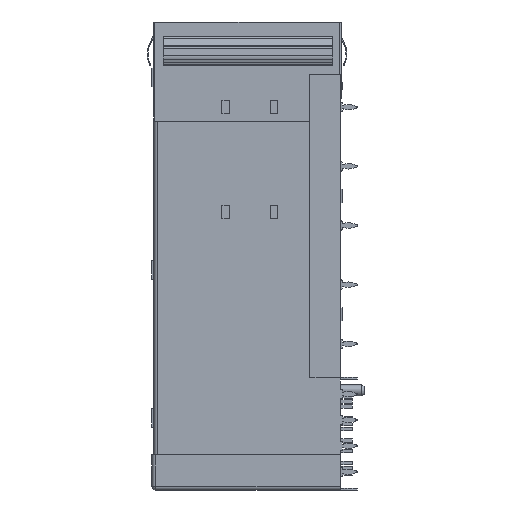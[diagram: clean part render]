
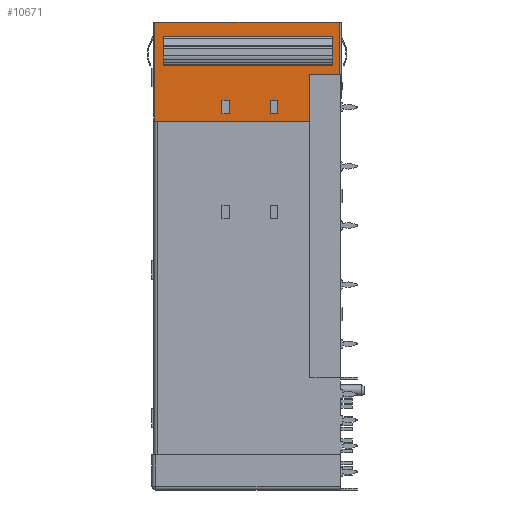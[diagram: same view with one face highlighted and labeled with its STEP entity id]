
A CAD part, left-side view. The second image highlights one B-rep face of the part: STEP entity #10671.
In plain terms, the highlighted planar face has unit normal (-1, 0, 0).
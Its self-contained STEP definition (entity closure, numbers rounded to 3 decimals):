
#105 = DIRECTION ( 'NONE',  ( 0., 0., 1. ) ) ;
#576 = CARTESIAN_POINT ( 'NONE',  ( -21.625, 9.45, -10.6 ) ) ;
#801 = CARTESIAN_POINT ( 'NONE',  ( -21.625, 0., -7.1 ) ) ;
#1171 = CARTESIAN_POINT ( 'NONE',  ( -21.625, 1.05, -1.9 ) ) ;
#1560 = FACE_BOUND ( 'NONE', #15765, .T. ) ;
#1894 = ORIENTED_EDGE ( 'NONE', *, *, #69504, .T. ) ;
#2061 = LINE ( 'NONE', #15901, #43849 ) ;
#2487 = VECTOR ( 'NONE', #65101, 1000. ) ;
#4101 = EDGE_CURVE ( 'NONE', #58446, #46046, #51675, .T. ) ;
#5381 = DIRECTION ( 'NONE',  ( 0., 0., -1. ) ) ;
#5405 = ORIENTED_EDGE ( 'NONE', *, *, #71910, .T. ) ;
#5601 = EDGE_CURVE ( 'NONE', #15027, #12348, #8885, .T. ) ;
#6505 = CARTESIAN_POINT ( 'NONE',  ( -21.625, 15., -12.4 ) ) ;
#6560 = CARTESIAN_POINT ( 'NONE',  ( -21.625, 16., -10.6 ) ) ;
#6942 = LINE ( 'NONE', #46851, #42539 ) ;
#7406 = LINE ( 'NONE', #33792, #39459 ) ;
#8166 = ORIENTED_EDGE ( 'NONE', *, *, #72322, .T. ) ;
#8399 = EDGE_LOOP ( 'NONE', ( #5405, #14282, #1894, #47153 ) ) ;
#8885 = LINE ( 'NONE', #47711, #55857 ) ;
#9076 = ORIENTED_EDGE ( 'NONE', *, *, #20015, .F. ) ;
#9655 = VERTEX_POINT ( 'NONE', #72562 ) ;
#10589 = CARTESIAN_POINT ( 'NONE',  ( -21.625, 25.1, -13.4 ) ) ;
#10671 = ADVANCED_FACE ( 'NONE', ( #1560, #16657, #61781, #59992 ), #34344, .F. ) ;
#11082 = CARTESIAN_POINT ( 'NONE',  ( -21.625, 8.45, 0. ) ) ;
#11856 = CARTESIAN_POINT ( 'NONE',  ( -21.625, 1.05, -2.181 ) ) ;
#12091 = VERTEX_POINT ( 'NONE', #49321 ) ;
#12348 = VERTEX_POINT ( 'NONE', #27281 ) ;
#13636 = VERTEX_POINT ( 'NONE', #46339 ) ;
#14282 = ORIENTED_EDGE ( 'NONE', *, *, #20137, .T. ) ;
#15027 = VERTEX_POINT ( 'NONE', #35669 ) ;
#15765 = EDGE_LOOP ( 'NONE', ( #22253, #53220, #24999, #18745 ) ) ;
#15901 = CARTESIAN_POINT ( 'NONE',  ( -21.625, 15., 0. ) ) ;
#16276 = ORIENTED_EDGE ( 'NONE', *, *, #33803, .T. ) ;
#16636 = EDGE_LOOP ( 'NONE', ( #70924, #57732, #8166, #9076 ) ) ;
#16657 = FACE_BOUND ( 'NONE', #8399, .T. ) ;
#16762 = DIRECTION ( 'NONE',  ( 0., -1., 0. ) ) ;
#16866 = CARTESIAN_POINT ( 'NONE',  ( -21.625, 0., -10.6 ) ) ;
#16917 = VERTEX_POINT ( 'NONE', #61858 ) ;
#17950 = EDGE_CURVE ( 'NONE', #30521, #12091, #48536, .T. ) ;
#18677 = EDGE_CURVE ( 'NONE', #50938, #15027, #34424, .T. ) ;
#18745 = ORIENTED_EDGE ( 'NONE', *, *, #17950, .T. ) ;
#20015 = EDGE_CURVE ( 'NONE', #46046, #9655, #43951, .T. ) ;
#20137 = EDGE_CURVE ( 'NONE', #27330, #13636, #35118, .T. ) ;
#20358 = VECTOR ( 'NONE', #26150, 1000. ) ;
#20580 = LINE ( 'NONE', #72843, #48886 ) ;
#20679 = CARTESIAN_POINT ( 'NONE',  ( -21.625, 16., -12.4 ) ) ;
#21269 = DIRECTION ( 'NONE',  ( 0., 1., 0. ) ) ;
#21424 = CARTESIAN_POINT ( 'NONE',  ( -21.625, 0., -12.4 ) ) ;
#22253 = ORIENTED_EDGE ( 'NONE', *, *, #33489, .T. ) ;
#22936 = VERTEX_POINT ( 'NONE', #10589 ) ;
#22977 = CARTESIAN_POINT ( 'NONE',  ( -21.625, 4.1, -13.4 ) ) ;
#23663 = VERTEX_POINT ( 'NONE', #576 ) ;
#24999 = ORIENTED_EDGE ( 'NONE', *, *, #58418, .T. ) ;
#25205 = VECTOR ( 'NONE', #37685, 1000. ) ;
#25303 = LINE ( 'NONE', #16866, #42154 ) ;
#25721 = LINE ( 'NONE', #28750, #53967 ) ;
#26150 = DIRECTION ( 'NONE',  ( 0., 0., 1. ) ) ;
#26938 = CARTESIAN_POINT ( 'NONE',  ( -21.625, 0., -10.6 ) ) ;
#26955 = DIRECTION ( 'NONE',  ( 0., -1., 0. ) ) ;
#27139 = VECTOR ( 'NONE', #70847, 1000. ) ;
#27281 = CARTESIAN_POINT ( 'NONE',  ( -21.625, 25.1, 0. ) ) ;
#27330 = VERTEX_POINT ( 'NONE', #6560 ) ;
#28465 = CARTESIAN_POINT ( 'NONE',  ( -21.625, 9.45, 0. ) ) ;
#28750 = CARTESIAN_POINT ( 'NONE',  ( -21.625, 4.1, 0. ) ) ;
#28780 = ORIENTED_EDGE ( 'NONE', *, *, #5601, .T. ) ;
#30521 = VERTEX_POINT ( 'NONE', #52207 ) ;
#31539 = CARTESIAN_POINT ( 'NONE',  ( -21.625, 1.05, -1.9 ) ) ;
#33044 = VECTOR ( 'NONE', #5381, 1000. ) ;
#33489 = EDGE_CURVE ( 'NONE', #12091, #23663, #39043, .T. ) ;
#33568 = DIRECTION ( 'NONE',  ( 0., 1., 0. ) ) ;
#33792 = CARTESIAN_POINT ( 'NONE',  ( -21.625, 25.2, -13.4 ) ) ;
#33803 = EDGE_CURVE ( 'NONE', #12348, #22936, #34618, .T. ) ;
#34189 = EDGE_LOOP ( 'NONE', ( #54278, #61323, #48122, #28780, #16276, #61384 ) ) ;
#34246 = DIRECTION ( 'NONE',  ( 0., 0., -1. ) ) ;
#34333 = DIRECTION ( 'NONE',  ( 1., 0., 0. ) ) ;
#34344 = PLANE ( 'NONE',  #54092 ) ;
#34424 = LINE ( 'NONE', #35644, #67804 ) ;
#34507 = DIRECTION ( 'NONE',  ( 0., 0., 1. ) ) ;
#34618 = LINE ( 'NONE', #59423, #2487 ) ;
#34669 = CARTESIAN_POINT ( 'NONE',  ( -21.625, 0., 0. ) ) ;
#34818 = LINE ( 'NONE', #11082, #33044 ) ;
#35118 = LINE ( 'NONE', #26938, #38656 ) ;
#35644 = CARTESIAN_POINT ( 'NONE',  ( -21.625, 0.1, 0. ) ) ;
#35669 = CARTESIAN_POINT ( 'NONE',  ( -21.625, 0.1, 0. ) ) ;
#36040 = EDGE_CURVE ( 'NONE', #23663, #16917, #25303, .T. ) ;
#36757 = DIRECTION ( 'NONE',  ( 0., 0., 1. ) ) ;
#37274 = VECTOR ( 'NONE', #105, 1000. ) ;
#37685 = DIRECTION ( 'NONE',  ( 0., 1., 0. ) ) ;
#37933 = CARTESIAN_POINT ( 'NONE',  ( -21.625, 1.05, -1.9 ) ) ;
#38221 = EDGE_CURVE ( 'NONE', #43557, #54125, #20580, .T. ) ;
#38656 = VECTOR ( 'NONE', #26955, 1000. ) ;
#39043 = LINE ( 'NONE', #28465, #37274 ) ;
#39459 = VECTOR ( 'NONE', #16762, 1000. ) ;
#39834 = DIRECTION ( 'NONE',  ( 0., 0., -1. ) ) ;
#40801 = CARTESIAN_POINT ( 'NONE',  ( -21.625, 23.95, -1.9 ) ) ;
#41887 = EDGE_CURVE ( 'NONE', #46409, #50938, #70951, .T. ) ;
#42154 = VECTOR ( 'NONE', #56461, 1000. ) ;
#42539 = VECTOR ( 'NONE', #52484, 1000. ) ;
#43557 = VERTEX_POINT ( 'NONE', #6505 ) ;
#43849 = VECTOR ( 'NONE', #61153, 1000. ) ;
#43951 = LINE ( 'NONE', #40801, #72051 ) ;
#46046 = VERTEX_POINT ( 'NONE', #68035 ) ;
#46226 = DIRECTION ( 'NONE',  ( 0., -1., 0. ) ) ;
#46339 = CARTESIAN_POINT ( 'NONE',  ( -21.625, 15., -10.6 ) ) ;
#46409 = VERTEX_POINT ( 'NONE', #65789 ) ;
#46851 = CARTESIAN_POINT ( 'NONE',  ( -21.625, 1.05, -2.181 ) ) ;
#47153 = ORIENTED_EDGE ( 'NONE', *, *, #38221, .T. ) ;
#47483 = DIRECTION ( 'NONE',  ( 0., 1., 0. ) ) ;
#47711 = CARTESIAN_POINT ( 'NONE',  ( -21.625, 25.3, 0. ) ) ;
#48122 = ORIENTED_EDGE ( 'NONE', *, *, #18677, .T. ) ;
#48536 = LINE ( 'NONE', #21424, #65268 ) ;
#48886 = VECTOR ( 'NONE', #33568, 1000. ) ;
#49321 = CARTESIAN_POINT ( 'NONE',  ( -21.625, 9.45, -12.4 ) ) ;
#50438 = LINE ( 'NONE', #71228, #20358 ) ;
#50938 = VERTEX_POINT ( 'NONE', #62095 ) ;
#51675 = LINE ( 'NONE', #37933, #25205 ) ;
#52207 = CARTESIAN_POINT ( 'NONE',  ( -21.625, 8.45, -12.4 ) ) ;
#52484 = DIRECTION ( 'NONE',  ( 0., 1., 0. ) ) ;
#53220 = ORIENTED_EDGE ( 'NONE', *, *, #36040, .T. ) ;
#53967 = VECTOR ( 'NONE', #34507, 1000. ) ;
#54092 = AXIS2_PLACEMENT_3D ( 'NONE', #34669, #34333, #34246 ) ;
#54125 = VERTEX_POINT ( 'NONE', #20679 ) ;
#54278 = ORIENTED_EDGE ( 'NONE', *, *, #65666, .T. ) ;
#55857 = VECTOR ( 'NONE', #47483, 1000. ) ;
#56009 = VECTOR ( 'NONE', #46226, 1000. ) ;
#56461 = DIRECTION ( 'NONE',  ( 0., -1., 0. ) ) ;
#57148 = LINE ( 'NONE', #31539, #27139 ) ;
#57732 = ORIENTED_EDGE ( 'NONE', *, *, #68733, .T. ) ;
#58418 = EDGE_CURVE ( 'NONE', #16917, #30521, #34818, .T. ) ;
#58446 = VERTEX_POINT ( 'NONE', #1171 ) ;
#59423 = CARTESIAN_POINT ( 'NONE',  ( -21.625, 25.1, 0. ) ) ;
#59992 = FACE_OUTER_BOUND ( 'NONE', #34189, .T. ) ;
#61153 = DIRECTION ( 'NONE',  ( 0., 0., -1. ) ) ;
#61323 = ORIENTED_EDGE ( 'NONE', *, *, #41887, .T. ) ;
#61384 = ORIENTED_EDGE ( 'NONE', *, *, #62610, .T. ) ;
#61781 = FACE_BOUND ( 'NONE', #16636, .T. ) ;
#61858 = CARTESIAN_POINT ( 'NONE',  ( -21.625, 8.45, -10.6 ) ) ;
#62095 = CARTESIAN_POINT ( 'NONE',  ( -21.625, 0.1, -7.1 ) ) ;
#62610 = EDGE_CURVE ( 'NONE', #22936, #70834, #7406, .T. ) ;
#65101 = DIRECTION ( 'NONE',  ( 0., 0., -1. ) ) ;
#65268 = VECTOR ( 'NONE', #21269, 1000. ) ;
#65666 = EDGE_CURVE ( 'NONE', #70834, #46409, #25721, .T. ) ;
#65789 = CARTESIAN_POINT ( 'NONE',  ( -21.625, 4.1, -7.1 ) ) ;
#67804 = VECTOR ( 'NONE', #36757, 1000. ) ;
#68035 = CARTESIAN_POINT ( 'NONE',  ( -21.625, 23.95, -1.9 ) ) ;
#68463 = VERTEX_POINT ( 'NONE', #11856 ) ;
#68733 = EDGE_CURVE ( 'NONE', #58446, #68463, #57148, .T. ) ;
#69504 = EDGE_CURVE ( 'NONE', #13636, #43557, #2061, .T. ) ;
#70834 = VERTEX_POINT ( 'NONE', #22977 ) ;
#70847 = DIRECTION ( 'NONE',  ( 0., 0., -1. ) ) ;
#70924 = ORIENTED_EDGE ( 'NONE', *, *, #4101, .F. ) ;
#70951 = LINE ( 'NONE', #801, #56009 ) ;
#71228 = CARTESIAN_POINT ( 'NONE',  ( -21.625, 16., 0. ) ) ;
#71910 = EDGE_CURVE ( 'NONE', #54125, #27330, #50438, .T. ) ;
#72051 = VECTOR ( 'NONE', #39834, 1000. ) ;
#72322 = EDGE_CURVE ( 'NONE', #68463, #9655, #6942, .T. ) ;
#72562 = CARTESIAN_POINT ( 'NONE',  ( -21.625, 23.95, -2.181 ) ) ;
#72843 = CARTESIAN_POINT ( 'NONE',  ( -21.625, 0., -12.4 ) ) ;
